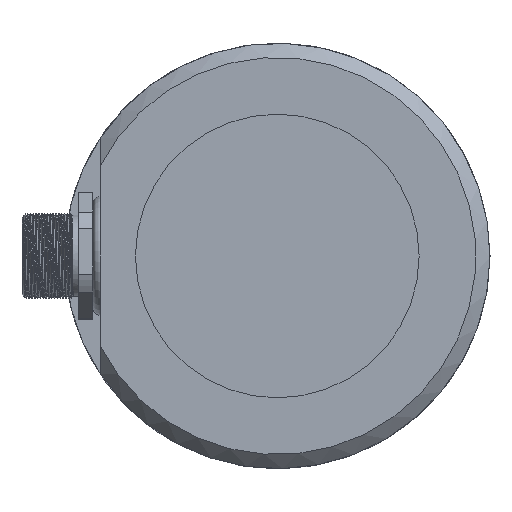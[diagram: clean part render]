
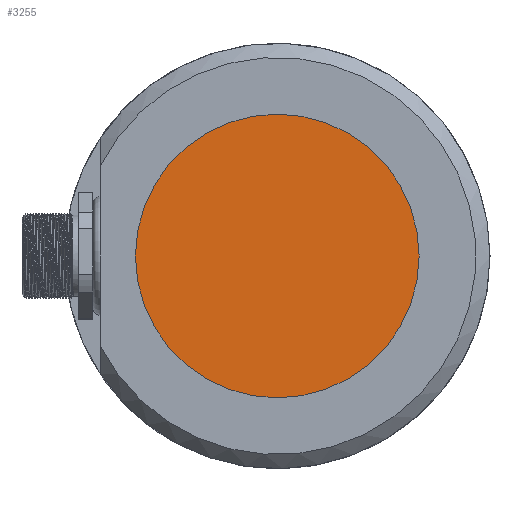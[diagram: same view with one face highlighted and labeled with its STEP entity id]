
A CAD part, left-side view. The second image highlights one B-rep face of the part: STEP entity #3255.
In plain terms, the highlighted planar face has unit normal (-1, 0, 0).
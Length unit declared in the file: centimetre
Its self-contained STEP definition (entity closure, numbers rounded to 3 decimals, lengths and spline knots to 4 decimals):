
#1079=PLANE('',#3465);
#1167=VERTEX_POINT('',#4245);
#1422=CIRCLE('',#3464,2.);
#1526=EDGE_CURVE('',#1167,#1167,#1422,.T.);
#1966=ORIENTED_EDGE('',*,*,#1526,.T.);
#2781=EDGE_LOOP('',(#1966));
#3021=FACE_BOUND('',#2781,.T.);
#3255=ADVANCED_FACE('',(#3021),#1079,.T.);
#3464=AXIS2_PLACEMENT_3D('',#4244,#3715,#3716);
#3465=AXIS2_PLACEMENT_3D('',#4246,#3717,$);
#3715=DIRECTION('',(-1.,0.,0.));
#3716=DIRECTION('',(0.,0.,2.));
#3717=DIRECTION('',(-1.,0.,0.));
#4244=CARTESIAN_POINT('',(0.1,0.,0.));
#4245=CARTESIAN_POINT('',(0.1,0.,2.));
#4246=CARTESIAN_POINT('',(0.1,0.,0.));
